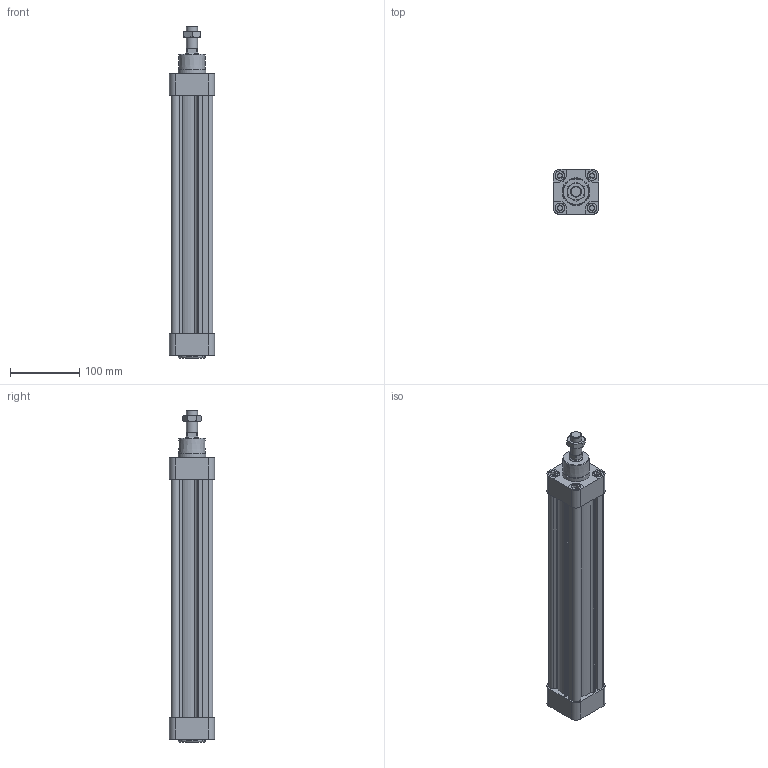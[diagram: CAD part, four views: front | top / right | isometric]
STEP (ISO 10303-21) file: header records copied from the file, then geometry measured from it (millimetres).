
FILE_DESCRIPTION( ( 'STEP AP203' ), '1' );
FILE_NAME( 'p:/temp/worker_22/temp/app_90_02018091519131479411713192d056f_000000_00_00_000000/format_0/MCQI2-11-50-300M(0_0).stp', '2018-09-15T17:13:16', ( '' ), ( '' ), ' ', 'PARTsolutions', ' ' );
FILE_SCHEMA( ( 'CONFIG_CONTROL_DESIGN' ) );
Length unit declared in the file: millimetre
Products named in the file (4): MCQI2-11-50-300M(0_0); _MCQI2-11-50-300M(00-b); _MCQI2-11-50-300M(00-r); _MCQI250(-n)
Assembly tree (3 placements, depth 2):
  MCQI2-11-50-300M(0_0)
    _MCQI2-11-50-300M(00-b)
    _MCQI2-11-50-300M(00-r)
    _MCQI250(-n)
Bounding box: 65 x 65 x 479 mm (x, y, z)
Volume: 860430.5 mm3; surface area: 246973.8 mm2
Topology: 3 solids, 3 shells, 388 faces, 949 edges, 604 vertices
Faces by surface type: plane 254, cylinder 106, cone 26, torus 2
Full cylindrical faces by diameter (mm): 6.917 x8, 7 x2, 7.9 x2, 11.445 x2, 13.6 x8, 14 x8, 14.376 x1, 16 x1, 20 x2, 40 x2, 50 x2
Entity records: 11290 total; most frequent: CARTESIAN_POINT 2048, DIRECTION 1941, ORIENTED_EDGE 1782, EDGE_CURVE 891, AXIS2_PLACEMENT_3D 683, VERTEX_POINT 600, LINE 575, VECTOR 575
